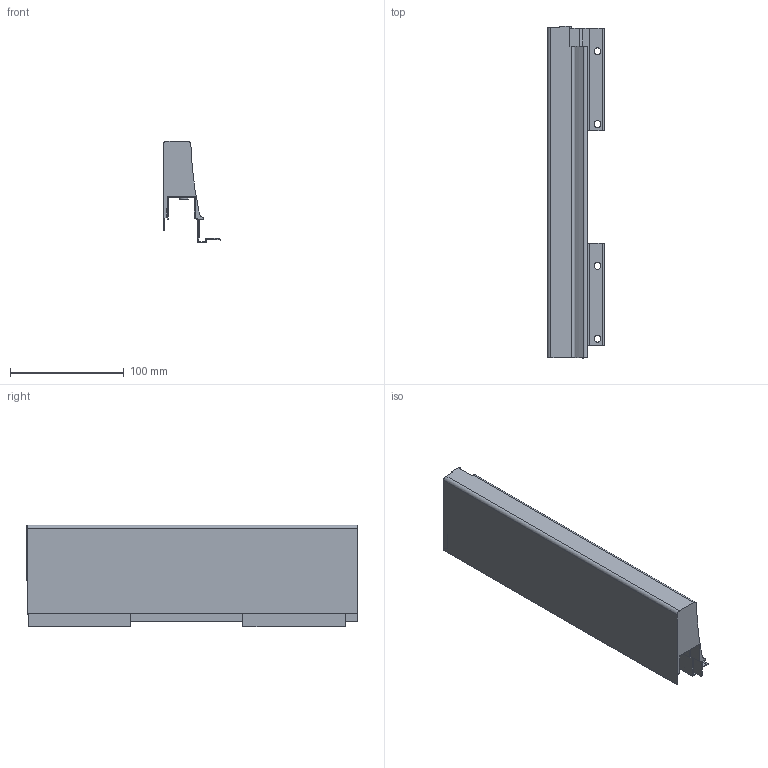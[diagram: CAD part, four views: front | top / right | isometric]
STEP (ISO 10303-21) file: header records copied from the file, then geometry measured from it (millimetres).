
FILE_DESCRIPTION (( 'STEP AP214' ), '1' );
FILE_NAME ('_XP Agantis Dekorseite H95 NL300 LI.step', '2010-07-08T06:05:32', ( 'grass' ), ( '' ), 'SwSTEP 2.0', 'SolidWorks 2010', '' );
FILE_SCHEMA (( 'AUTOMOTIVE_DESIGN' ));
Length unit declared in the file: millimetre
Products named in the file (1): _XP Agantis Dekorseite H95 NL300 LI
Bounding box: 50.01 x 291.5 x 89.5 mm (x, y, z)
Volume: 411625.5 mm3; surface area: 100055.6 mm2
Topology: 1 solids, 1 shells, 102 faces, 298 edges, 195 vertices
Faces by surface type: plane 79, cylinder 23
Entity records: 3399 total; most frequent: ORIENTED_EDGE 596, CARTESIAN_POINT 596, DIRECTION 551, EDGE_CURVE 298, LINE 251, VECTOR 251, VERTEX_POINT 195, AXIS2_PLACEMENT_3D 150
